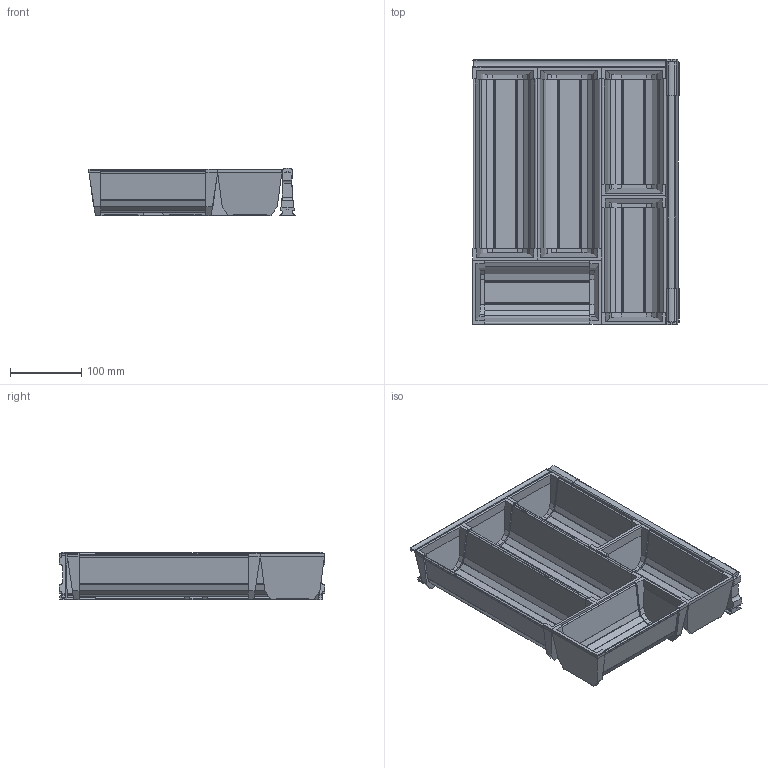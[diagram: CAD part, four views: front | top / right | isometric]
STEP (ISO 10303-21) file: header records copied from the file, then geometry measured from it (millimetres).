
FILE_DESCRIPTION (( 'STEP AP214' ), '1' );
FILE_NAME ('Magic-Sorto_B3_NL-400.STEP', '2010-08-17T11:54:33', ( 'grass' ), ( '' ), 'SwSTEP 2.0', 'SolidWorks 2010', '' );
FILE_SCHEMA (( 'AUTOMOTIVE_DESIGN' ));
Length unit declared in the file: millimetre
Products named in the file (1): Magic-Sorto_B3_NL-400
Bounding box: 290.01 x 373 x 67.5 mm (x, y, z)
Volume: 681166.6 mm3; surface area: 604455.9 mm2
Topology: 7 solids, 7 shells, 707 faces, 2049 edges, 1366 vertices
Faces by surface type: plane 461, cylinder 246
Entity records: 31328 total; most frequent: CARTESIAN_POINT 4601, ORIENTED_EDGE 4098, DIRECTION 3821, EDGE_CURVE 2049, LINE 1521, VECTOR 1521, VERTEX_POINT 1366, AXIS2_PLACEMENT_3D 1150
